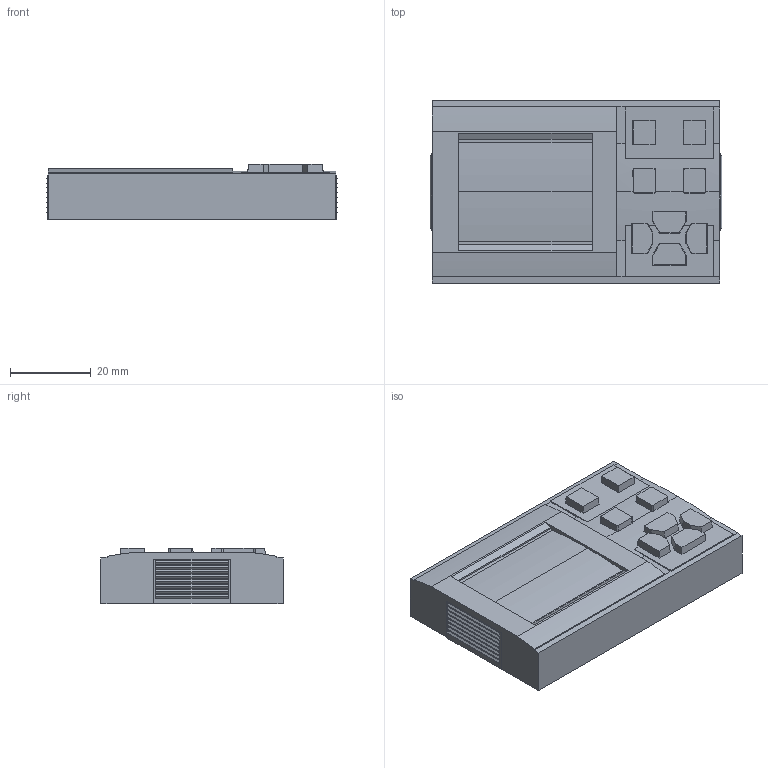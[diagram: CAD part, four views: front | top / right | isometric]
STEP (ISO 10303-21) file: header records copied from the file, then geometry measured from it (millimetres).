
FILE_DESCRIPTION (( 'STEP AP214' ), '1' );
FILE_NAME ('AF-HMI.STEP', '2024-03-26T07:25:13', ( '' ), ( '' ), 'SwSTEP 2.0', 'SolidWorks 2022', '' );
FILE_SCHEMA (( 'AUTOMOTIVE_DESIGN' ));
Length unit declared in the file: millimetre
Products named in the file (1): AF-HMI
Bounding box: 72 x 45 x 13.8 mm (x, y, z)
Volume: 39008.9 mm3; surface area: 9724.1 mm2
Topology: 1 solids, 10 shells, 205 faces, 489 edges, 324 vertices
Faces by surface type: plane 163, cone 27, cylinder 15
Entity records: 6604 total; most frequent: CARTESIAN_POINT 1240, ORIENTED_EDGE 978, DIRECTION 901, EDGE_CURVE 489, VECTOR 403, LINE 403, VERTEX_POINT 324, AXIS2_PLACEMENT_3D 249
